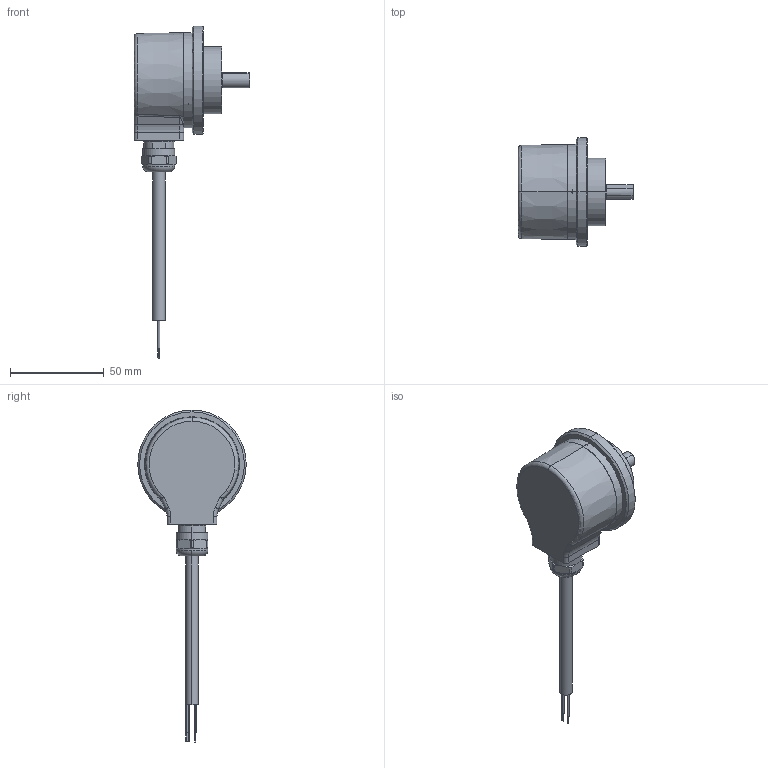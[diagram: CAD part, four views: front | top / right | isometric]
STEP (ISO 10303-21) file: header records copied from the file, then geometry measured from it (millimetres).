
FILE_DESCRIPTION (( 'STEP AP203' ), '1' );
FILE_NAME ('8.5000.76X2.XXXX.STEP', '2017-04-05T07:49:37', ( '' ), ( '' ), 'SwSTEP 2.0', 'SolidWorks 2017', '' );
FILE_SCHEMA (( 'CONFIG_CONTROL_DESIGN' ));
Length unit declared in the file: millimetre
Products named in the file (1): 8.5000.76X2.XXXX
Bounding box: 62 x 58 x 177.5 mm (x, y, z)
Volume: 55507.6 mm3; surface area: 34880.4 mm2
Topology: 13 solids, 13 shells, 363 faces, 787 edges, 468 vertices
Faces by surface type: cylinder 132, cone 89, plane 89, torus 45, bspline 8
Entity records: 10388 total; most frequent: CARTESIAN_POINT 2311, DIRECTION 1841, ORIENTED_EDGE 1538, AXIS2_PLACEMENT_3D 780, EDGE_CURVE 769, VERTEX_POINT 468, CIRCLE 424, EDGE_LOOP 409
